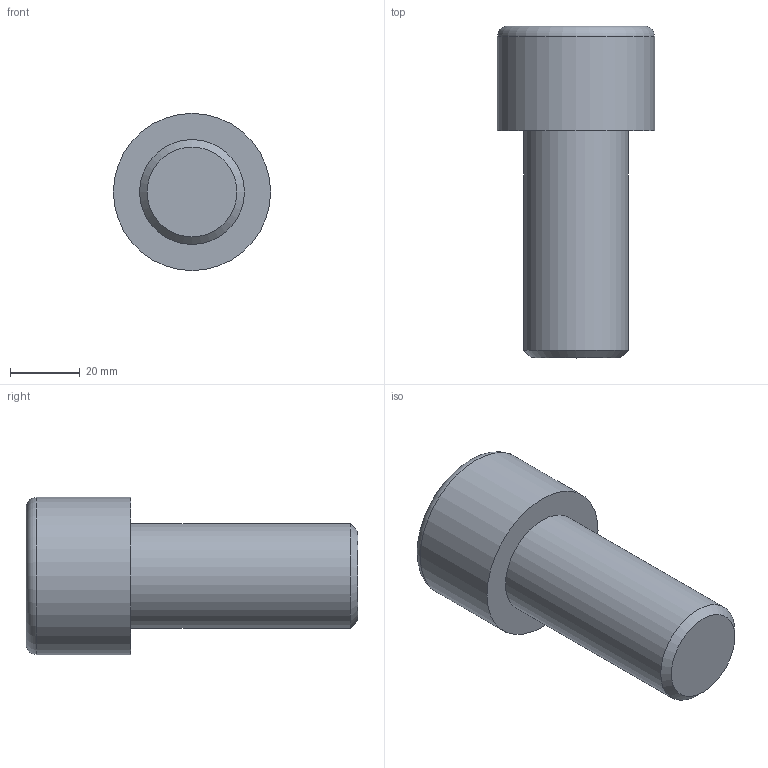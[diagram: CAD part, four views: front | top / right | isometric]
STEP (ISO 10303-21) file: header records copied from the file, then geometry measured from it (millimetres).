
FILE_DESCRIPTION(/* description */ (''),/* implementation_level */ '2;1');
FILE_NAME(/* name */ 'C:\Users\D\Documents\Inventor\各種小物\JIS\JIS B 1176 六角穴付きボルト\M30x65.stp',/* time_stamp */ '2022-05-09T19:02:00+09:00',/* author */ ('D'),/* organization */ (''),/* preprocessor_version */ 'ST-DEVELOPER v18',/* originating_system */ 'Autodesk Inventor 2020',/* authorisation */ '');
FILE_SCHEMA (('AUTOMOTIVE_DESIGN { 1 0 10303 214 3 1 1 }'));
Length unit declared in the file: millimetre
Products named in the file (1): M1.6x2.5
Bounding box: 45 x 95 x 45 mm (x, y, z)
Volume: 85484.5 mm3; surface area: 14532.7 mm2
Topology: 1 solids, 1 shells, 14 faces, 33 edges, 22 vertices
Faces by surface type: plane 9, cone 2, cylinder 2, torus 1
Full cylindrical faces by diameter (mm): 30 x1, 45 x1
Entity records: 435 total; most frequent: CARTESIAN_POINT 83, ORIENTED_EDGE 64, DIRECTION 64, EDGE_CURVE 32, AXIS2_PLACEMENT_3D 24, VERTEX_POINT 22, EDGE_LOOP 16, LINE 16
